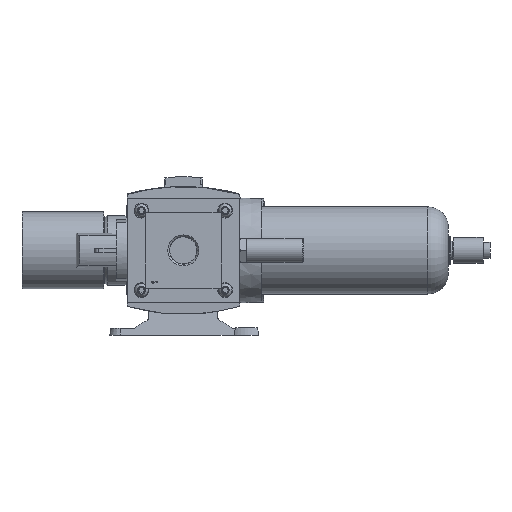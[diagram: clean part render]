
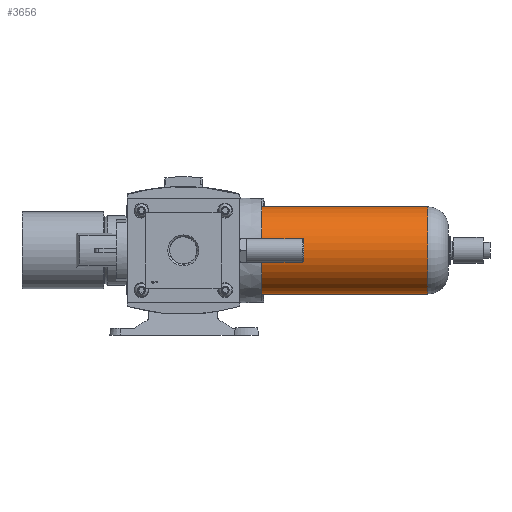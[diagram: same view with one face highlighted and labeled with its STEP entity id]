
A CAD part, left-side view. The second image highlights one B-rep face of the part: STEP entity #3656.
In plain terms, the highlighted cylindrical face has radius 31.75 mm (diameter 63.5 mm), a full revolution.
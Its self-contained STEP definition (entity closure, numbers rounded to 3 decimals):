
#3656 = ADVANCED_FACE( '', ( #7289, #7290 ), #7291, .T. );
#7289 = FACE_OUTER_BOUND( '', #10885, .T. );
#7290 = FACE_OUTER_BOUND( '', #10886, .T. );
#7291 = CYLINDRICAL_SURFACE( '', #10887, 31.75 );
#10885 = EDGE_LOOP( '', ( #20006 ) );
#10886 = EDGE_LOOP( '', ( #20007 ) );
#10887 = AXIS2_PLACEMENT_3D( '', #20008, #20009, #20010 );
#20006 = ORIENTED_EDGE( '', *, *, #22850, .F. );
#20007 = ORIENTED_EDGE( '', *, *, #23806, .T. );
#20008 = CARTESIAN_POINT( '', ( 0., -136.7, 0. ) );
#20009 = DIRECTION( '', ( 0., 1., 0. ) );
#20010 = DIRECTION( '', ( 0., 0., -1. ) );
#22850 = EDGE_CURVE( '', #27885, #27885, #27886, .T. );
#23806 = EDGE_CURVE( '', #29047, #29047, #29048, .T. );
#27885 = VERTEX_POINT( '', #35235 );
#27886 = CIRCLE( '', #35236, 31.75 );
#29047 = VERTEX_POINT( '', #36829 );
#29048 = CIRCLE( '', #36830, 31.75 );
#35235 = CARTESIAN_POINT( '', ( 0., -121.1, -31.75 ) );
#35236 = AXIS2_PLACEMENT_3D( '', #39908, #39909, #39910 );
#36829 = CARTESIAN_POINT( '', ( 0., 0., -31.75 ) );
#36830 = AXIS2_PLACEMENT_3D( '', #40746, #40747, #40748 );
#39908 = CARTESIAN_POINT( '', ( 0., -121.1, 0. ) );
#39909 = DIRECTION( '', ( 0., -1., 0. ) );
#39910 = DIRECTION( '', ( 0., 0., -1. ) );
#40746 = CARTESIAN_POINT( '', ( 0., 0., 0. ) );
#40747 = DIRECTION( '', ( 0., -1., 0. ) );
#40748 = DIRECTION( '', ( 0., 0., -1. ) );
